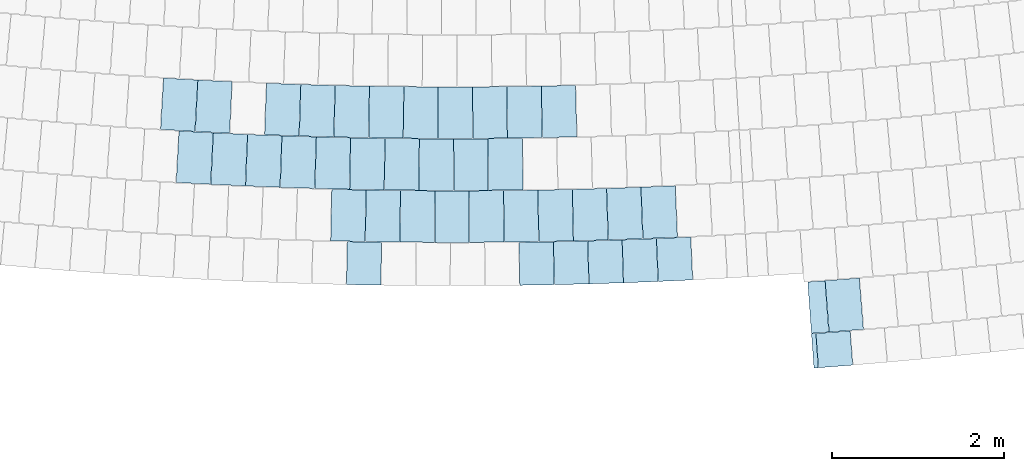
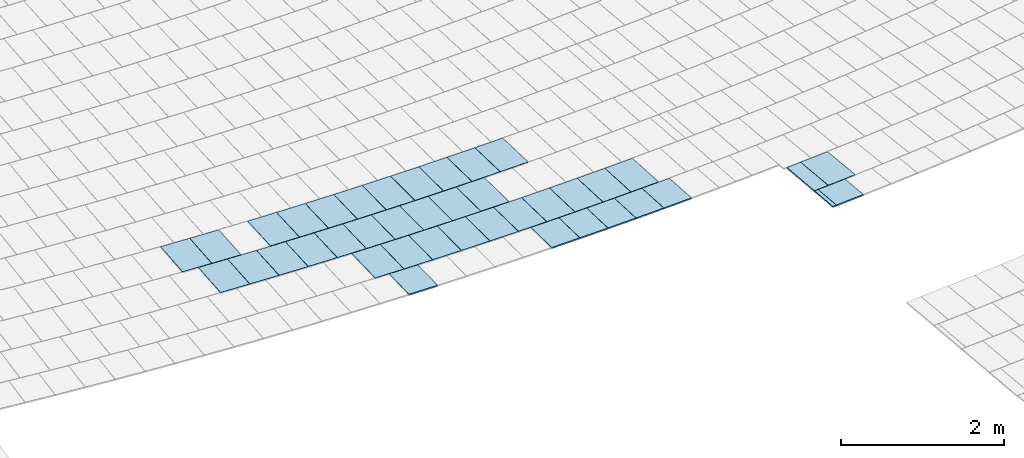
# One storey, part 38 of 438: 41 slabs.
"""IFC2X3 building model written with IfcOpenShell, lengths in millimetres."""

from ifc_helpers import new_model, entity, si_unit, converted_unit, derived_unit, direction, frame, origin, place, context, subcontext, project, spatial, polyline, outline, extrude, material, layer, layer_set, layer_usage, type_object, element, save


model = new_model("IFC2X3")

# Units and contexts
model_context = context("Model", 3, precision=0.01, world=origin(), true_north=direction((6.123031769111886e-17, 1.0)))
body_context = subcontext(model_context, "Body", "Model", "MODEL_VIEW")
ifc_project = project(units=[si_unit("LENGTHUNIT", "METRE", prefix="MILLI"), si_unit("AREAUNIT", "SQUARE_METRE"), si_unit("VOLUMEUNIT", "CUBIC_METRE"), converted_unit("PLANEANGLEUNIT", "DEGREE", entity("IfcRatioMeasure", 0.017453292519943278), si_unit("PLANEANGLEUNIT", "RADIAN"), dimensions=[0, 0, 0, 0, 0, 0, 0]), si_unit("MASSUNIT", "GRAM", prefix="KILO"), derived_unit("MASSDENSITYUNIT", [(si_unit("MASSUNIT", "GRAM", prefix="KILO"), 1), (si_unit("LENGTHUNIT", "METRE"), -3)]), derived_unit("MOMENTOFINERTIAUNIT", [(si_unit("LENGTHUNIT", "METRE"), 4)]), si_unit("TIMEUNIT", "SECOND"), si_unit("FREQUENCYUNIT", "HERTZ"), si_unit("THERMODYNAMICTEMPERATUREUNIT", "DEGREE_CELSIUS"), derived_unit("THERMALTRANSMITTANCEUNIT", [(si_unit("MASSUNIT", "GRAM", prefix="KILO"), 1), (si_unit("THERMODYNAMICTEMPERATUREUNIT", "KELVIN"), -1), (si_unit("TIMEUNIT", "SECOND"), -3)]), derived_unit("THERMALCONDUCTANCEUNIT", [(si_unit("MASSUNIT", "GRAM", prefix="KILO"), 1), (si_unit("LENGTHUNIT", "METRE"), 1), (si_unit("THERMODYNAMICTEMPERATUREUNIT", "KELVIN"), -1), (si_unit("TIMEUNIT", "SECOND"), -3)]), derived_unit("VOLUMETRICFLOWRATEUNIT", [(si_unit("LENGTHUNIT", "METRE"), 3), (si_unit("TIMEUNIT", "SECOND"), -1)]), derived_unit("MASSFLOWRATEUNIT", [(si_unit("MASSUNIT", "GRAM", prefix="KILO"), 1), (si_unit("TIMEUNIT", "SECOND"), -1)]), derived_unit("ROTATIONALFREQUENCYUNIT", [(si_unit("TIMEUNIT", "SECOND"), -1)]), si_unit("ELECTRICCURRENTUNIT", "AMPERE"), si_unit("ELECTRICVOLTAGEUNIT", "VOLT"), si_unit("POWERUNIT", "WATT"), converted_unit("FORCEUNIT", "KIP", entity("IfcRatioMeasure", 2.088543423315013e-05), si_unit("FORCEUNIT", "NEWTON"), dimensions=[1, 1, -2, 0, 0, 0, 0]), si_unit("ILLUMINANCEUNIT", "LUX"), si_unit("LUMINOUSFLUXUNIT", "LUMEN"), si_unit("LUMINOUSINTENSITYUNIT", "CANDELA"), derived_unit("USERDEFINED", [(si_unit("MASSUNIT", "GRAM", prefix="KILO"), -1), (si_unit("LENGTHUNIT", "METRE"), -2), (si_unit("TIMEUNIT", "SECOND"), 3), (si_unit("LUMINOUSFLUXUNIT", "LUMEN"), 1)]), derived_unit("USERDEFINED", [(si_unit("MASSUNIT", "GRAM", prefix="KILO"), 1), (si_unit("LENGTHUNIT", "METRE"), 3), (si_unit("TIMEUNIT", "SECOND"), -3), (si_unit("ELECTRICCURRENTUNIT", "AMPERE"), -2)]), derived_unit("USERDEFINED", [(si_unit("LENGTHUNIT", "METRE"), 2), (si_unit("TIMEUNIT", "SECOND"), -2)]), derived_unit("SOUNDPOWERUNIT", [(si_unit("MASSUNIT", "GRAM", prefix="KILO"), 1), (si_unit("LENGTHUNIT", "METRE"), 2), (si_unit("TIMEUNIT", "SECOND"), -3)]), derived_unit("SOUNDPRESSUREUNIT", [(si_unit("MASSUNIT", "GRAM", prefix="KILO"), 1), (si_unit("LENGTHUNIT", "METRE"), -1), (si_unit("TIMEUNIT", "SECOND"), -2)]), derived_unit("LINEARVELOCITYUNIT", [(si_unit("LENGTHUNIT", "METRE"), 1), (si_unit("TIMEUNIT", "SECOND"), -1)]), si_unit("PRESSUREUNIT", "PASCAL"), derived_unit("USERDEFINED", [(si_unit("LENGTHUNIT", "METRE"), -2), (si_unit("MASSUNIT", "GRAM", prefix="KILO"), 1), (si_unit("TIMEUNIT", "SECOND"), -2)]), derived_unit("LINEARFORCEUNIT", [(si_unit("MASSUNIT", "GRAM", prefix="KILO"), 1), (si_unit("LENGTHUNIT", "METRE"), 1), (si_unit("TIMEUNIT", "SECOND"), -2), (si_unit("LENGTHUNIT", "METRE"), -1)]), derived_unit("PLANARFORCEUNIT", [(si_unit("MASSUNIT", "GRAM", prefix="KILO"), 1), (si_unit("LENGTHUNIT", "METRE"), 1), (si_unit("TIMEUNIT", "SECOND"), -2), (si_unit("LENGTHUNIT", "METRE"), -2)]), derived_unit("SPECIFICHEATCAPACITYUNIT", [(si_unit("LENGTHUNIT", "METRE"), 2), (si_unit("TIMEUNIT", "SECOND"), -2), (si_unit("THERMODYNAMICTEMPERATUREUNIT", "KELVIN"), -1)]), derived_unit("VAPORPERMEABILITYUNIT", [(si_unit("TIMEUNIT", "SECOND"), 1), (si_unit("LENGTHUNIT", "METRE"), -1)]), derived_unit("DYNAMICVISCOSITYUNIT", [(si_unit("MASSUNIT", "GRAM", prefix="KILO"), 1), (si_unit("LENGTHUNIT", "METRE"), -1), (si_unit("TIMEUNIT", "SECOND"), -1)]), derived_unit("THERMALEXPANSIONCOEFFICIENTUNIT", [(si_unit("THERMODYNAMICTEMPERATUREUNIT", "KELVIN"), -1)])], contexts=[model_context])

# Site, building, storey
site_placement = place(None, frame((0.0, 0.0, 0.0), z_axis=(0.0, 0.0, 1.0), x_axis=(0.8191520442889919, 0.5735764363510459, 0.0)))
site = spatial("IfcSite", under=ifc_project, at=site_placement, Name="Default", CompositionType="ELEMENT")
building_placement = place(site_placement, origin())
building = spatial("IfcBuilding", under=site, at=building_placement, CompositionType="ELEMENT")
storey_placement = place(building_placement, origin())
storey = spatial("IfcBuildingStorey", under=building, at=storey_placement, Name="PLAN", CompositionType="ELEMENT", Elevation=0.0)

# Slabs
ifc_material = material(Name="Paint-01")
ifc_layer = layer(ifc_material, 20.00000000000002)
ifc_layer_set = layer_set([ifc_layer], Name="Floor:Slab-179:1000")
ifc_layer_usage = layer_usage(ifc_layer_set, "AXIS3", "POSITIVE", 0.0)
slab_type = type_object("IfcSlabType", Name="Floor:Slab-179:1000", PredefinedType="FLOOR", material=ifc_layer_set)
slab_1_placement = place(storey_placement, origin())
element("IfcSlab", 1, at=slab_1_placement, inside=storey, type_object=slab_type, material=ifc_layer_usage, Name="Floor:Slab-179:1000", ObjectType="Floor:Slab-179:1000", PredefinedType="FLOOR", context=body_context, shape_type="SweptSolid", body=[
    extrude(outline(polyline([(-300.0, -200.00000294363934), (299.9999976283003, -200.00000294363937), (300.0, 200.00000294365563), (-299.9999976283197, 200.00000294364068), (-300.0, -200.00000294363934)])), frame((-69521.6408633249, -117586.2460763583, 520.0), z_axis=(0.0, 0.0, -1.0), x_axis=(-0.5070242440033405, -0.8619317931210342, 0.0)), (0.0, 0.0, 1.0), 20.000000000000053),
])
slab_2_placement = place(storey_placement, origin())
element("IfcSlab", 2, at=slab_2_placement, inside=storey, type_object=slab_type, material=ifc_layer_usage, Name="Floor:Slab-179:1000", ObjectType="Floor:Slab-179:1000", PredefinedType="FLOOR", context=body_context, shape_type="SweptSolid", body=[
    extrude(outline(polyline([(-299.9999992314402, -101.32873996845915), (299.9999981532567, -101.32873996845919), (299.9999992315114, 101.34258339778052), (-299.9999981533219, 101.31489653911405), (-299.9999992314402, -101.32873996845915)])), frame((-69782.8065315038, -117431.78825258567, 520.0), z_axis=(0.0, 0.0, -1.0), x_axis=(-0.513029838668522, -0.8583707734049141, 0.0)), (0.0, 0.0, 1.0), 20.000000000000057),
])
slab_3_placement = place(storey_placement, origin())
element("IfcSlab", 3, at=slab_3_placement, inside=storey, type_object=slab_type, material=ifc_layer_usage, Name="Floor:Slab-179:1000", ObjectType="Floor:Slab-179:1000", PredefinedType="FLOOR", context=body_context, shape_type="SweptSolid", body=[
    extrude(outline(polyline([(-200.0, -200.00000294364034), (199.99999762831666, -200.00000294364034), (200.0, 200.0000029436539), (-199.9999976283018, 200.0000029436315), (-200.0, -200.00000294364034)])), frame((-69912.20157029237, -117942.15162550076, 520.0), z_axis=(0.0, 0.0, -1.0), x_axis=(-0.5093396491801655, -0.860565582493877, 0.0)), (0.0, 0.0, 1.0), 20.000000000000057),
])
slab_4_placement = place(storey_placement, origin())
element("IfcSlab", 4, at=slab_4_placement, inside=storey, type_object=slab_type, material=ifc_layer_usage, Name="Floor:Slab-179:1000", ObjectType="Floor:Slab-179:1000", PredefinedType="FLOOR", context=body_context, shape_type="SweptSolid", body=[
    extrude(outline(polyline([(-199.99999882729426, -25.367491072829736), (199.99999855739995, -25.36749107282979), (199.9999988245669, 24.853625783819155), (-199.99999855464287, 25.881356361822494), (-199.99999882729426, -25.367491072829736)])), frame((-70107.2419832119, -117826.5045960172, 520.0), z_axis=(0.0, 0.0, -1.0), x_axis=(-0.5152731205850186, -0.8570260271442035, 0.0)), (0.0, 0.0, 1.0), 20.000000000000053),
])
slab_5_placement = place(storey_placement, origin())
element("IfcSlab", 5, at=slab_5_placement, inside=storey, type_object=slab_type, material=ifc_layer_usage, Name="Floor:Slab-179:1000", ObjectType="Floor:Slab-179:1000", PredefinedType="FLOOR", context=body_context, shape_type="SweptSolid", body=[
    extrude(outline(polyline([(-300.0, -200.00000294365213), (299.9999976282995, -200.0000029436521), (300.0, 200.0000029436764), (-299.99999762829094, 200.0000029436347), (-300.0, -200.00000294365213)])), frame((-73572.28344437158, -111972.07792603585, 520.0), z_axis=(0.0, 0.0, -1.0), x_axis=(-0.6026856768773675, -0.7979786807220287, 0.0)), (0.0, 0.0, 1.0), 20.000000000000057),
])
slab_6_placement = place(storey_placement, origin())
element("IfcSlab", 6, at=slab_6_placement, inside=storey, type_object=slab_type, material=ifc_layer_usage, Name="Floor:Slab-179:1000", ObjectType="Floor:Slab-179:1000", PredefinedType="FLOOR", context=body_context, shape_type="SweptSolid", body=[
    extrude(outline(polyline([(-300.0, -200.00000294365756), (299.99999762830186, -200.00000294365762), (300.0, 200.00000294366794), (-299.99999762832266, 200.00000294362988), (-300.0, -200.00000294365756)])), frame((-73774.45802221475, -112577.08377805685, 520.0), z_axis=(0.0, 0.0, -1.0), x_axis=(-0.5997730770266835, -0.8001701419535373, 0.0)), (0.0, 0.0, 1.0), 19.99999999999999),
])
slab_7_placement = place(storey_placement, origin())
element("IfcSlab", 7, at=slab_7_placement, inside=storey, type_object=slab_type, material=ifc_layer_usage, Name="Floor:Slab-179:1000", ObjectType="Floor:Slab-179:1000", PredefinedType="FLOOR", context=body_context, shape_type="SweptSolid", body=[
    extrude(outline(polyline([(-300.0, -200.00000294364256), (299.9999976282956, -200.00000294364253), (300.0, 200.0000029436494), (-299.9999976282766, 200.00000294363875), (-300.0, -200.00000294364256)])), frame((-74210.59718793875, -111482.63346221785, 520.0), z_axis=(0.0, 0.0, -1.0), x_axis=(-0.6142556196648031, -0.7891071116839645, 0.0)), (0.0, 0.0, 1.0), 19.99999999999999),
])
slab_8_placement = place(storey_placement, origin())
element("IfcSlab", 8, at=slab_8_placement, inside=storey, type_object=slab_type, material=ifc_layer_usage, Name="Floor:Slab-179:1000", ObjectType="Floor:Slab-179:1000", PredefinedType="FLOOR", context=body_context, shape_type="SweptSolid", body=[
    extrude(outline(polyline([(-300.0, -200.00000294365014), (299.99999762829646, -200.00000294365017), (300.0, 200.0000029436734), (-299.9999976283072, 200.00000294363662), (-300.0, -200.00000294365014)])), frame((-74527.06112398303, -111234.4343369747, 520.0), z_axis=(0.0, 0.0, -1.0), x_axis=(-0.6199917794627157, -0.7846083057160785, 0.0)), (0.0, 0.0, 1.0), 20.000000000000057),
])
slab_9_placement = place(storey_placement, origin())
element("IfcSlab", 9, at=slab_9_placement, inside=storey, type_object=slab_type, material=ifc_layer_usage, Name="Floor:Slab-179:1000", ObjectType="Floor:Slab-179:1000", PredefinedType="FLOOR", context=body_context, shape_type="SweptSolid", body=[
    extrude(outline(polyline([(-299.99999762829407, -200.00000294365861), (300.0, -200.00000294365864), (299.9999976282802, 200.00000294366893), (-300.0, 200.0000029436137), (-299.99999762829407, -200.00000294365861)])), frame((-73250.46755861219, -112213.29725417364, 520.0), z_axis=(0.0, 0.0, -1.0), x_axis=(-0.5968525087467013, -0.8023509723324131, 0.0)), (0.0, 0.0, 1.0), 20.000000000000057),
])
slab_10_placement = place(storey_placement, origin())
element("IfcSlab", 10, at=slab_10_placement, inside=storey, type_object=slab_type, material=ifc_layer_usage, Name="Floor:Slab-179:1000", ObjectType="Floor:Slab-179:1000", PredefinedType="FLOOR", context=body_context, shape_type="SweptSolid", body=[
    extrude(outline(polyline([(-299.9999976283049, -200.00000294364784), (300.0, -200.00000294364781), (299.9999976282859, 200.00000294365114), (-300.0, 200.0000029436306), (-299.9999976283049, -200.00000294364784)])), frame((-72926.90176850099, -112452.16417959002, 520.0), z_axis=(0.0, 0.0, -1.0), x_axis=(-0.5909876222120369, -0.8066806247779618, 0.0)), (0.0, 0.0, 1.0), 20.000000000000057),
])
slab_11_placement = place(storey_placement, origin())
element("IfcSlab", 11, at=slab_11_placement, inside=storey, type_object=slab_type, material=ifc_layer_usage, Name="Floor:Slab-179:1000", ObjectType="Floor:Slab-179:1000", PredefinedType="FLOOR", context=body_context, shape_type="SweptSolid", body=[
    extrude(outline(polyline([(-299.99999762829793, -200.000002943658), (300.0, -200.000002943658), (299.99999762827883, 200.00000294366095), (-300.0, 200.0000029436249), (-299.99999762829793, -200.000002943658)])), frame((-72274.58934803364, -112922.79017174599, 520.0), z_axis=(0.0, 0.0, -1.0), x_axis=(-0.579163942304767, -0.8152110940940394, 0.0)), (0.0, 0.0, 1.0), 19.999999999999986),
])
slab_12_placement = place(storey_placement, origin())
element("IfcSlab", 12, at=slab_12_placement, inside=storey, type_object=slab_type, material=ifc_layer_usage, Name="Floor:Slab-179:1000", ObjectType="Floor:Slab-179:1000", PredefinedType="FLOOR", context=body_context, shape_type="SweptSolid", body=[
    extrude(outline(polyline([(-299.9999976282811, -200.00000294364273), (300.0, -200.00000294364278), (299.9999976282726, 200.000002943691), (-300.0, 200.0000029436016), (-299.9999976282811, -200.00000294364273)])), frame((-71945.87738337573, -113154.52422810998, 520.0), z_axis=(0.0, 0.0, -1.0), x_axis=(-0.5732057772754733, -0.8194114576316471, 0.0)), (0.0, 0.0, 1.0), 20.000000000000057),
])
slab_13_placement = place(storey_placement, origin())
element("IfcSlab", 13, at=slab_13_placement, inside=storey, type_object=slab_type, material=ifc_layer_usage, Name="Floor:Slab-179:1000", ObjectType="Floor:Slab-179:1000", PredefinedType="FLOOR", context=body_context, shape_type="SweptSolid", body=[
    extrude(outline(polyline([(-299.99999762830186, -200.00000294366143), (300.0, -200.00000294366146), (299.99999762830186, 200.00000294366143), (-300.0, 200.0000029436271), (-299.99999762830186, -200.00000294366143)])), frame((-72601.60326921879, -112688.66600823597, 520.0), z_axis=(0.0, 0.0, -1.0), x_axis=(-0.5850913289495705, -0.8109674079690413, 0.0)), (0.0, 0.0, 1.0), 19.99999999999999),
])
slab_14_placement = place(storey_placement, origin())
element("IfcSlab", 14, at=slab_14_placement, inside=storey, type_object=slab_type, material=ifc_layer_usage, Name="Floor:Slab-179:1000", ObjectType="Floor:Slab-179:1000", PredefinedType="FLOOR", context=body_context, shape_type="SweptSolid", body=[
    extrude(outline(polyline([(-299.9999976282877, -200.0000029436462), (300.0, -200.00000294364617), (299.9999976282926, 200.00000294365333), (-300.0, 200.00000294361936), (-299.9999976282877, -200.0000029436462)])), frame((-71615.48484391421, -113383.85586233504, 520.0), z_axis=(0.0, 0.0, -1.0), x_axis=(-0.5672171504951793, -0.823568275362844, 0.0)), (0.0, 0.0, 1.0), 20.000000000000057),
])
slab_15_placement = place(storey_placement, origin())
element("IfcSlab", 15, at=slab_15_placement, inside=storey, type_object=slab_type, material=ifc_layer_usage, Name="Floor:Slab-179:1000", ObjectType="Floor:Slab-179:1000", PredefinedType="FLOOR", context=body_context, shape_type="SweptSolid", body=[
    extrude(outline(polyline([(-299.9999976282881, -200.0000029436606), (300.0, -200.00000294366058), (299.9999976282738, 200.00000294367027), (-300.0, 200.00000294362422), (-299.9999976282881, -200.0000029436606)])), frame((-71283.42928762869, -113610.77288709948, 520.0), z_axis=(0.0, 0.0, -1.0), x_axis=(-0.5611983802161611, -0.8276813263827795, 0.0)), (0.0, 0.0, 1.0), 20.000000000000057),
])
slab_16_placement = place(storey_placement, origin())
element("IfcSlab", 16, at=slab_16_placement, inside=storey, type_object=slab_type, material=ifc_layer_usage, Name="Floor:Slab-179:1000", ObjectType="Floor:Slab-179:1000", PredefinedType="FLOOR", context=body_context, shape_type="SweptSolid", body=[
    extrude(outline(polyline([(-299.99999762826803, -200.00000294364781), (300.0, -200.0000029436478), (299.999997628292, 200.00000294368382), (-300.0, 200.00000294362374), (-299.99999762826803, -200.00000294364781)])), frame((-70949.72836087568, -113835.26324340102, 520.0), z_axis=(0.0, 0.0, -1.0), x_axis=(-0.5551497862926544, -0.8317503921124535, 0.0)), (0.0, 0.0, 1.0), 20.000000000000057),
])
slab_17_placement = place(storey_placement, origin())
element("IfcSlab", 17, at=slab_17_placement, inside=storey, type_object=slab_type, material=ifc_layer_usage, Name="Floor:Slab-179:1000", ObjectType="Floor:Slab-179:1000", PredefinedType="FLOOR", context=body_context, shape_type="SweptSolid", body=[
    extrude(outline(polyline([(-300.0, -200.0000029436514), (299.9999976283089, -200.0000029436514), (300.0, 200.00000294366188), (-299.99999762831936, 200.00000294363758), (-300.0, -200.0000029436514)])), frame((-74095.38318493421, -112334.72014437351, 520.0), z_axis=(0.0, 0.0, -1.0), x_axis=(-0.6055270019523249, -0.7958247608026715, 0.0)), (0.0, 0.0, 1.0), 20.000000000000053),
])
slab_18_placement = place(storey_placement, origin())
element("IfcSlab", 18, at=slab_18_placement, inside=storey, type_object=slab_type, material=ifc_layer_usage, Name="Floor:Slab-179:1000", ObjectType="Floor:Slab-179:1000", PredefinedType="FLOOR", context=body_context, shape_type="SweptSolid", body=[
    extrude(outline(polyline([(-300.0, -200.0000029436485), (299.999997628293, -200.00000294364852), (300.0, 200.00000294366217), (-299.9999976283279, 200.00000294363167), (-300.0, -200.0000029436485)])), frame((-74414.55247578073, -112090.04882447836, 520.0), z_axis=(0.0, 0.0, -1.0), x_axis=(-0.6112494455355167, -0.7914380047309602, 0.0)), (0.0, 0.0, 1.0), 20.000000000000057),
])
slab_19_placement = place(storey_placement, origin())
element("IfcSlab", 19, at=slab_19_placement, inside=storey, type_object=slab_type, material=ifc_layer_usage, Name="Floor:Slab-179:1000", ObjectType="Floor:Slab-179:1000", PredefinedType="FLOOR", context=body_context, shape_type="SweptSolid", body=[
    extrude(outline(polyline([(-300.0, -200.0000029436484), (299.99999762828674, -200.00000294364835), (300.0, 200.000002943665), (-299.9999976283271, 200.00000294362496), (-300.0, -200.0000029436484)])), frame((-74731.94930114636, -111843.08253883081, 520.0), z_axis=(0.0, 0.0, -1.0), x_axis=(-0.6169401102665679, -0.787010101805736, 0.0)), (0.0, 0.0, 1.0), 20.000000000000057),
])
slab_20_placement = place(storey_placement, origin())
element("IfcSlab", 20, at=slab_20_placement, inside=storey, type_object=slab_type, material=ifc_layer_usage, Name="Floor:Slab-179:1000", ObjectType="Floor:Slab-179:1000", PredefinedType="FLOOR", context=body_context, shape_type="SweptSolid", body=[
    extrude(outline(polyline([(-299.9999976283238, -200.00000294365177), (300.0, -200.00000294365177), (299.9999976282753, 200.0000029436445), (-300.0, 200.00000294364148), (-299.9999976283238, -200.00000294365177)])), frame((-73451.79367251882, -112817.1271250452, 520.0), z_axis=(0.0, 0.0, -1.0), x_axis=(-0.5939879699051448, -0.8044739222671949, 0.0)), (0.0, 0.0, 1.0), 20.000000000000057),
])
slab_21_placement = place(storey_placement, origin())
element("IfcSlab", 21, at=slab_21_placement, inside=storey, type_object=slab_type, material=ifc_layer_usage, Name="Floor:Slab-179:1000", ObjectType="Floor:Slab-179:1000", PredefinedType="FLOOR", context=body_context, shape_type="SweptSolid", body=[
    extrude(outline(polyline([(-299.9999976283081, -200.0000029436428), (300.0, -200.00000294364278), (299.9999976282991, 200.00000294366), (-300.0, 200.00000294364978), (-299.9999976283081, -200.0000029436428)])), frame((-73127.40691116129, -113054.83770548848, 520.0), z_axis=(0.0, 0.0, -1.0), x_axis=(-0.5881719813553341, -0.8087358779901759, 0.0)), (0.0, 0.0, 1.0), 19.99999999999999),
])
slab_22_placement = place(storey_placement, origin())
element("IfcSlab", 22, at=slab_22_placement, inside=storey, type_object=slab_type, material=ifc_layer_usage, Name="Floor:Slab-179:1000", ObjectType="Floor:Slab-179:1000", PredefinedType="FLOOR", context=body_context, shape_type="SweptSolid", body=[
    extrude(outline(polyline([(-299.9999976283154, -200.00000294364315), (300.0, -200.00000294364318), (299.9999976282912, 200.000002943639), (-300.0, 200.00000294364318), (-299.9999976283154, -200.00000294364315)])), frame((-72473.5337015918, -113523.21125437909, 520.0), z_axis=(0.0, 0.0, -1.0), x_axis=(-0.5764485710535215, -0.8171334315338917, 0.0)), (0.0, 0.0, 1.0), 20.000000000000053),
])
slab_23_placement = place(storey_placement, origin())
element("IfcSlab", 23, at=slab_23_placement, inside=storey, type_object=slab_type, material=ifc_layer_usage, Name="Floor:Slab-179:1000", ObjectType="Floor:Slab-179:1000", PredefinedType="FLOOR", context=body_context, shape_type="SweptSolid", body=[
    extrude(outline(polyline([(-299.99999762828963, -200.00000294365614), (300.0, -200.0000029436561), (299.99999762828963, 200.00000294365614), (-300.0, 200.00000294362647), (-299.99999762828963, -200.00000294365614)])), frame((-72144.08124824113, -113753.84987209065, 520.0), z_axis=(0.0, 0.0, -1.0), x_axis=(-0.5705417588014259, -0.8212685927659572, 0.0)), (0.0, 0.0, 1.0), 20.000000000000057),
])
slab_24_placement = place(storey_placement, origin())
element("IfcSlab", 24, at=slab_24_placement, inside=storey, type_object=slab_type, material=ifc_layer_usage, Name="Floor:Slab-179:1000", ObjectType="Floor:Slab-179:1000", PredefinedType="FLOOR", context=body_context, shape_type="SweptSolid", body=[
    extrude(outline(polyline([(-299.9999976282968, -200.0000029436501), (300.0, -200.0000029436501), (299.9999976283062, 200.00000294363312), (-300.0, 200.0000029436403), (-299.9999976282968, -200.0000029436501)])), frame((-71812.97437118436, -113982.10702305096, 520.0), z_axis=(0.0, 0.0, -1.0), x_axis=(-0.564605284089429, -0.825361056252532, 0.0)), (0.0, 0.0, 1.0), 20.000000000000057),
])
slab_25_placement = place(storey_placement, origin())
element("IfcSlab", 25, at=slab_25_placement, inside=storey, type_object=slab_type, material=ifc_layer_usage, Name="Floor:Slab-179:1000", ObjectType="Floor:Slab-179:1000", PredefinedType="FLOOR", context=body_context, shape_type="SweptSolid", body=[
    extrude(outline(polyline([(-299.9999976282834, -200.00000294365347), (300.0, -200.0000029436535), (299.99999762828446, 200.00000294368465), (-300.0, 200.00000294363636), (-299.9999976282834, -200.00000294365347)])), frame((-72801.31460300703, -113290.20316081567, 520.0), z_axis=(0.0, 0.0, -1.0), x_axis=(-0.5823254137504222, -0.8129557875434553, 0.0)), (0.0, 0.0, 1.0), 20.000000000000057),
])
slab_26_placement = place(storey_placement, origin())
element("IfcSlab", 26, at=slab_26_placement, inside=storey, type_object=slab_type, material=ifc_layer_usage, Name="Floor:Slab-179:1000", ObjectType="Floor:Slab-179:1000", PredefinedType="FLOOR", context=body_context, shape_type="SweptSolid", body=[
    extrude(outline(polyline([(-299.99999762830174, -200.00000294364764), (300.0, -200.00000294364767), (299.9999976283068, 200.00000294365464), (-300.0, 200.0000029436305), (-299.99999762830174, -200.00000294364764)])), frame((-73327.54021426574, -113656.9616777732, 520.0), z_axis=(0.0, 0.0, -1.0), x_axis=(-0.5854101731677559, -0.8107372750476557, 0.0)), (0.0, 0.0, 1.0), 20.000000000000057),
])
slab_27_placement = place(storey_placement, origin())
element("IfcSlab", 27, at=slab_27_placement, inside=storey, type_object=slab_type, material=ifc_layer_usage, Name="Floor:Slab-179:1000", ObjectType="Floor:Slab-179:1000", PredefinedType="FLOOR", context=body_context, shape_type="SweptSolid", body=[
    extrude(outline(polyline([(-299.999997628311, -200.0000029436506), (300.0, -200.0000029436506), (299.9999976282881, 200.00000294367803), (-300.0, 200.0000029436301), (-299.999997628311, -200.0000029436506)])), frame((-73652.72623430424, -113420.3852222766, 520.0), z_axis=(0.0, 0.0, -1.0), x_axis=(-0.5911779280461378, -0.8065411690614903, 0.0)), (0.0, 0.0, 1.0), 19.99999999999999),
])
slab_28_placement = place(storey_placement, origin())
element("IfcSlab", 28, at=slab_28_placement, inside=storey, type_object=slab_type, material=ifc_layer_usage, Name="Floor:Slab-179:1000", ObjectType="Floor:Slab-179:1000", PredefinedType="FLOOR", context=body_context, shape_type="SweptSolid", body=[
    extrude(outline(polyline([(-299.99999762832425, -200.00000294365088), (300.0, -200.00000294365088), (299.9999976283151, 200.000002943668), (-300.0, 200.0000029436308), (-299.99999762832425, -200.00000294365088)])), frame((-73000.67506624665, -113891.21270110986, 520.0), z_axis=(0.0, 0.0, -1.0), x_axis=(-0.5796126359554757, -0.8148921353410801, 0.0)), (0.0, 0.0, 1.0), 19.99999999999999),
])
slab_29_placement = place(storey_placement, origin())
element("IfcSlab", 29, at=slab_29_placement, inside=storey, type_object=slab_type, material=ifc_layer_usage, Name="Floor:Slab-179:1000", ObjectType="Floor:Slab-179:1000", PredefinedType="FLOOR", context=body_context, shape_type="SweptSolid", body=[
    extrude(outline(polyline([(-299.9999976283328, -200.00000294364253), (300.0, -200.00000294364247), (299.99999762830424, 200.0000029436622), (-300.0, 200.00000294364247), (-299.9999976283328, -200.00000294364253)])), frame((-72341.9739869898, -114352.69090078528, 520.0), z_axis=(0.0, 0.0, -1.0), x_axis=(-0.5679293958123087, -0.8230772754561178, 0.0)), (0.0, 0.0, 1.0), 20.000000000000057),
])
slab_30_placement = place(storey_placement, origin())
element("IfcSlab", 30, at=slab_30_placement, inside=storey, type_object=slab_type, material=ifc_layer_usage, Name="Floor:Slab-179:1000", ObjectType="Floor:Slab-179:1000", PredefinedType="FLOOR", context=body_context, shape_type="SweptSolid", body=[
    extrude(outline(polyline([(-299.9999976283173, -200.00000294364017), (300.0, -200.00000294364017), (299.99999762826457, 200.00000294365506), (-300.0, 200.0000029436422), (-299.9999976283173, -200.00000294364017)])), frame((-72010.1715667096, -114579.89459974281, 520.0), z_axis=(0.0, 0.0, -1.0), x_axis=(-0.5620442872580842, -0.8271071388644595, 0.0)), (0.0, 0.0, 1.0), 20.000000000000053),
])
slab_31_placement = place(storey_placement, origin())
element("IfcSlab", 31, at=slab_31_placement, inside=storey, type_object=slab_type, material=ifc_layer_usage, Name="Floor:Slab-179:1000", ObjectType="Floor:Slab-179:1000", PredefinedType="FLOOR", context=body_context, shape_type="SweptSolid", body=[
    extrude(outline(polyline([(-299.99999762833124, -200.00000294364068), (300.0, -200.00000294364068), (299.9999976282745, 200.00000294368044), (-300.0, 200.0000029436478), (-299.99999762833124, -200.00000294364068)])), frame((-72672.14741928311, -114123.12637492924, 520.0), z_axis=(0.0, 0.0, -1.0), x_axis=(-0.5737856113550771, -0.8190055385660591, 0.0)), (0.0, 0.0, 1.0), 20.000000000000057),
])
slab_32_placement = place(storey_placement, origin())
element("IfcSlab", 32, at=slab_32_placement, inside=storey, type_object=slab_type, material=ifc_layer_usage, Name="Floor:Slab-179:1000", ObjectType="Floor:Slab-179:1000", PredefinedType="FLOOR", context=body_context, shape_type="SweptSolid", body=[
    extrude(outline(polyline([(-299.99999762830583, -200.0000029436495), (300.0, -200.00000294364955), (299.99999762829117, 200.00000294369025), (-300.0, 200.00000294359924), (-299.99999762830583, -200.0000029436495)])), frame((-71341.74736506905, -115027.17340233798, 520.0), z_axis=(0.0, 0.0, -1.0), x_axis=(-0.5501885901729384, -0.8350404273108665, 0.0)), (0.0, 0.0, 1.0), 20.000000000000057),
])
slab_33_placement = place(storey_placement, origin())
element("IfcSlab", 33, at=slab_33_placement, inside=storey, type_object=slab_type, material=ifc_layer_usage, Name="Floor:Slab-179:1000", ObjectType="Floor:Slab-179:1000", PredefinedType="FLOOR", context=body_context, shape_type="SweptSolid", body=[
    extrude(outline(polyline([(-299.9999976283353, -200.00000294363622), (300.0, -200.00000294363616), (299.99999762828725, 200.0000029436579), (-300.0, 200.00000294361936), (-299.9999976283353, -200.00000294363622)])), frame((-71676.75703865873, -114804.72591297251, 520.0), z_axis=(0.0, 0.0, -1.0), x_axis=(-0.5561305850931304, -0.8310949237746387, 0.0)), (0.0, 0.0, 1.0), 20.000000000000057),
])
slab_34_placement = place(storey_placement, origin())
element("IfcSlab", 34, at=slab_34_placement, inside=storey, type_object=slab_type, material=ifc_layer_usage, Name="Floor:Slab-179:1000", ObjectType="Floor:Slab-179:1000", PredefinedType="FLOOR", context=body_context, shape_type="SweptSolid", body=[
    extrude(outline(polyline([(-299.99999762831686, -200.00000294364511), (300.0, -200.00000294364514), (299.9999976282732, 200.0000029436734), (-300.0, 200.0000029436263), (-299.99999762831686, -200.00000294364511)])), frame((-71005.15958932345, -115247.2257509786, 520.0), z_axis=(0.0, 0.0, -1.0), x_axis=(-0.5442186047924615, -0.8389434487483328, 0.0)), (0.0, 0.0, 1.0), 20.000000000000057),
])
slab_35_placement = place(storey_placement, origin())
element("IfcSlab", 35, at=slab_35_placement, inside=storey, type_object=slab_type, material=ifc_layer_usage, Name="Floor:Slab-179:1000", ObjectType="Floor:Slab-179:1000", PredefinedType="FLOOR", context=body_context, shape_type="SweptSolid", body=[
    extrude(outline(polyline([(-299.9999976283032, -200.0000029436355), (300.0, -200.0000029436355), (299.9999976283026, 200.00000294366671), (-300.0, 200.0000029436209), (-299.9999976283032, -200.0000029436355)])), frame((-70667.01083508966, -115464.87176388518, 520.0), z_axis=(0.0, 0.0, -1.0), x_axis=(-0.5382209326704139, -0.8428037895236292, 0.0)), (0.0, 0.0, 1.0), 20.000000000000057),
])
slab_36_placement = place(storey_placement, origin())
element("IfcSlab", 36, at=slab_36_placement, inside=storey, type_object=slab_type, material=ifc_layer_usage, Name="Floor:Slab-179:1000", ObjectType="Floor:Slab-179:1000", PredefinedType="FLOOR", context=body_context, shape_type="SweptSolid", body=[
    extrude(outline(polyline([(-249.99999762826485, -200.00000294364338), (250.0, -200.0000029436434), (249.99999762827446, 200.00000294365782), (-250.0, 200.00000294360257), (-249.99999762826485, -200.00000294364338)])), frame((-71845.33612659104, -115359.41471267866, 520.0), z_axis=(0.0, 0.0, -1.0), x_axis=(-0.5536703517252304, -0.8327359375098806, 0.0)), (0.0, 0.0, 1.0), 20.000000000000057),
])
slab_37_placement = place(storey_placement, origin())
element("IfcSlab", 37, at=slab_37_placement, inside=storey, type_object=slab_type, material=ifc_layer_usage, Name="Floor:Slab-179:1000", ObjectType="Floor:Slab-179:1000", PredefinedType="FLOOR", context=body_context, shape_type="SweptSolid", body=[
    extrude(outline(polyline([(-249.99999762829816, -200.00000294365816), (250.0, -200.0000029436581), (249.99999762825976, 200.00000294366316), (-250.0, 200.000002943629), (-249.99999762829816, -200.00000294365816)])), frame((-72179.11056446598, -115135.79217295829, 520.0), z_axis=(0.0, 0.0, -1.0), x_axis=(-0.5595327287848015, -0.8288082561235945, 0.0)), (0.0, 0.0, 1.0), 19.99999999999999),
])
slab_38_placement = place(storey_placement, origin())
element("IfcSlab", 38, at=slab_38_placement, inside=storey, type_object=slab_type, material=ifc_layer_usage, Name="Floor:Slab-179:1000", ObjectType="Floor:Slab-179:1000", PredefinedType="FLOOR", context=body_context, shape_type="SweptSolid", body=[
    extrude(outline(polyline([(-249.9999976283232, -200.0000029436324), (250.0, -200.00000294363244), (249.99999762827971, 200.00000294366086), (-250.0, 200.00000294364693), (-249.9999976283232, -200.0000029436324)])), frame((-71509.99201682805, -115580.67642128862, 520.0), z_axis=(0.0, 0.0, -1.0), x_axis=(-0.5477804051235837, -0.8366221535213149, 0.0)), (0.0, 0.0, 1.0), 20.000000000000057),
])
slab_39_placement = place(storey_placement, origin())
element("IfcSlab", 39, at=slab_39_placement, inside=storey, type_object=slab_type, material=ifc_layer_usage, Name="Floor:Slab-179:1000", ObjectType="Floor:Slab-179:1000", PredefinedType="FLOOR", context=body_context, shape_type="SweptSolid", body=[
    extrude(outline(polyline([(-249.99999762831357, -200.00000294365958), (250.0, -200.00000294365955), (249.9999976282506, 200.00000294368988), (-250.0, 200.0000029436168), (-249.99999762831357, -200.00000294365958)])), frame((-71173.09493335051, -115799.56628125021, 520.0), z_axis=(0.0, 0.0, -1.0), x_axis=(-0.5418631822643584, -0.84046671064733, 0.0)), (0.0, 0.0, 1.0), 19.99999999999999),
])
slab_40_placement = place(storey_placement, origin())
element("IfcSlab", 40, at=slab_40_placement, inside=storey, type_object=slab_type, material=ifc_layer_usage, Name="Floor:Slab-179:1000", ObjectType="Floor:Slab-179:1000", PredefinedType="FLOOR", context=body_context, shape_type="SweptSolid", body=[
    extrude(outline(polyline([(-249.9999976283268, -200.0000029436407), (250.0, -200.0000029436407), (249.99999762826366, 200.00000294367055), (-250.0, 200.00000294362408), (-249.9999976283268, -200.0000029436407)])), frame((-70834.66165166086, -116016.07339312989, 520.0), z_axis=(0.0, 0.0, -1.0), x_axis=(-0.5359189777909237, -0.8442694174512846, 0.0)), (0.0, 0.0, 1.0), 19.99999999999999),
])
slab_41_placement = place(storey_placement, origin())
element("IfcSlab", 41, at=slab_41_placement, inside=storey, type_object=slab_type, material=ifc_layer_usage, Name="Floor:Slab-179:1000", ObjectType="Floor:Slab-179:1000", PredefinedType="FLOOR", context=body_context, shape_type="SweptSolid", body=[
    extrude(outline(polyline([(-249.99999762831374, -200.0000029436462), (250.0, -200.0000029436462), (249.99999762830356, 200.00000294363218), (-250.0, 200.000002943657), (-249.99999762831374, -200.0000029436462)])), frame((-73823.85875691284, -113982.66081919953, 520.0), z_axis=(0.0, 0.0, -1.0), x_axis=(-0.5884209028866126, -0.8085547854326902, 0.0)), (0.0, 0.0, 1.0), 19.99999999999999),
])

save(model, "model.ifc")
